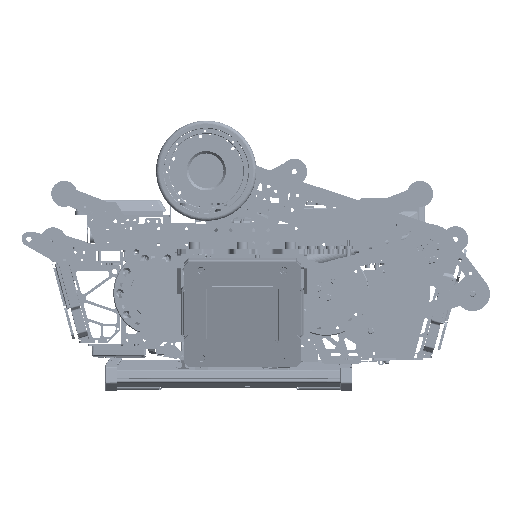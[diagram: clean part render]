
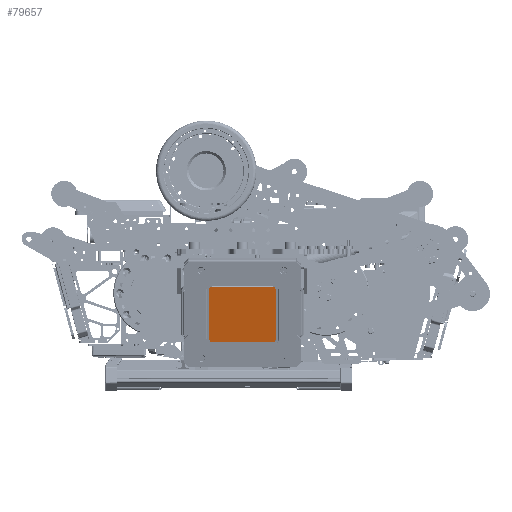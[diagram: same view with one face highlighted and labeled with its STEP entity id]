
A CAD part, front view. The second image highlights one B-rep face of the part: STEP entity #79657.
In plain terms, the highlighted planar face has unit normal (0, -0.966, -0.259).
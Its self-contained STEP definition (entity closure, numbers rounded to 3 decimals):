
#6412 = CARTESIAN_POINT ( 'NONE',  ( -34.66, -242.613, -106.769 ) ) ;
#6894 = CARTESIAN_POINT ( 'NONE',  ( 35.34, -243.454, -103.63 ) ) ;
#8904 = CARTESIAN_POINT ( 'NONE',  ( 0.34, -259.824, -42.535 ) ) ;
#12438 = VERTEX_POINT ( 'NONE', #312008 ) ;
#26704 = VERTEX_POINT ( 'NONE', #65310 ) ;
#27945 = DIRECTION ( 'NONE',  ( 0., 0.966, 0.259 ) ) ;
#45679 = VECTOR ( 'NONE', #255805, 1000. ) ;
#50062 = VECTOR ( 'NONE', #355656, 1000. ) ;
#57003 = EDGE_CURVE ( 'NONE', #190736, #214198, #83902, .T. ) ;
#65310 = CARTESIAN_POINT ( 'NONE',  ( 38.59, -258.983, -45.674 ) ) ;
#66719 = DIRECTION ( 'NONE',  ( 0., -0.259, 0.966 ) ) ;
#79657 = ADVANCED_FACE ( 'NONE', ( #516402 ), #109763, .F. ) ;
#83902 = CIRCLE ( 'NONE', #477783, 3.25 ) ;
#87515 = ORIENTED_EDGE ( 'NONE', *, *, #408386, .F. ) ;
#89263 = VECTOR ( 'NONE', #66719, 1000. ) ;
#106484 = DIRECTION ( 'NONE',  ( 1., 0., 0. ) ) ;
#109763 = PLANE ( 'NONE',  #174366 ) ;
#115210 = DIRECTION ( 'NONE',  ( 0., 0.966, 0.259 ) ) ;
#116696 = DIRECTION ( 'NONE',  ( 0., 0.966, 0.259 ) ) ;
#143326 = EDGE_CURVE ( 'NONE', #193594, #171504, #255591, .T. ) ;
#161559 = VECTOR ( 'NONE', #458933, 1000. ) ;
#171504 = VERTEX_POINT ( 'NONE', #6412 ) ;
#174366 = AXIS2_PLACEMENT_3D ( 'NONE', #526229, #209734, #106484 ) ;
#183169 = EDGE_CURVE ( 'NONE', #214198, #392085, #368722, .T. ) ;
#190736 = VERTEX_POINT ( 'NONE', #413530 ) ;
#193594 = VERTEX_POINT ( 'NONE', #653833 ) ;
#201356 = AXIS2_PLACEMENT_3D ( 'NONE', #614212, #207604, #607683 ) ;
#205408 = CARTESIAN_POINT ( 'NONE',  ( 35.34, -258.983, -45.674 ) ) ;
#207604 = DIRECTION ( 'NONE',  ( 0., 0.966, 0.259 ) ) ;
#209734 = DIRECTION ( 'NONE',  ( 0., 0.966, 0.259 ) ) ;
#214198 = VERTEX_POINT ( 'NONE', #647375 ) ;
#231161 = DIRECTION ( 'NONE',  ( 1., 0., 0. ) ) ;
#245279 = AXIS2_PLACEMENT_3D ( 'NONE', #205408, #115210, #471860 ) ;
#249061 = CARTESIAN_POINT ( 'NONE',  ( 0.34, -242.613, -106.769 ) ) ;
#255591 = LINE ( 'NONE', #249061, #161559 ) ;
#255805 = DIRECTION ( 'NONE',  ( 0., 0.259, -0.966 ) ) ;
#263377 = DIRECTION ( 'NONE',  ( 1., 0., 0. ) ) ;
#265078 = CIRCLE ( 'NONE', #201356, 3.25 ) ;
#265611 = LINE ( 'NONE', #418949, #45679 ) ;
#294771 = EDGE_CURVE ( 'NONE', #12438, #190736, #573292, .T. ) ;
#298593 = CIRCLE ( 'NONE', #245279, 3.25 ) ;
#312008 = CARTESIAN_POINT ( 'NONE',  ( -37.91, -243.454, -103.63 ) ) ;
#332498 = EDGE_CURVE ( 'NONE', #171504, #12438, #265078, .T. ) ;
#355613 = AXIS2_PLACEMENT_3D ( 'NONE', #6894, #116696, #263377 ) ;
#355656 = DIRECTION ( 'NONE',  ( 1., 0., 0. ) ) ;
#368722 = LINE ( 'NONE', #8904, #50062 ) ;
#377033 = ORIENTED_EDGE ( 'NONE', *, *, #183169, .F. ) ;
#391373 = CARTESIAN_POINT ( 'NONE',  ( 38.59, -243.454, -103.63 ) ) ;
#392085 = VERTEX_POINT ( 'NONE', #446615 ) ;
#408386 = EDGE_CURVE ( 'NONE', #26704, #418421, #265611, .T. ) ;
#413530 = CARTESIAN_POINT ( 'NONE',  ( -37.91, -258.983, -45.674 ) ) ;
#416745 = CARTESIAN_POINT ( 'NONE',  ( -37.91, -251.218, -74.652 ) ) ;
#418421 = VERTEX_POINT ( 'NONE', #391373 ) ;
#418949 = CARTESIAN_POINT ( 'NONE',  ( 38.59, -251.218, -74.652 ) ) ;
#426485 = ORIENTED_EDGE ( 'NONE', *, *, #143326, .F. ) ;
#446615 = CARTESIAN_POINT ( 'NONE',  ( 35.34, -259.824, -42.535 ) ) ;
#458933 = DIRECTION ( 'NONE',  ( -1., 0., 0. ) ) ;
#461291 = EDGE_CURVE ( 'NONE', #418421, #193594, #568297, .T. ) ;
#468231 = ORIENTED_EDGE ( 'NONE', *, *, #294771, .F. ) ;
#469093 = ORIENTED_EDGE ( 'NONE', *, *, #57003, .F. ) ;
#471860 = DIRECTION ( 'NONE',  ( 1., 0., 0. ) ) ;
#477783 = AXIS2_PLACEMENT_3D ( 'NONE', #484535, #27945, #231161 ) ;
#484535 = CARTESIAN_POINT ( 'NONE',  ( -34.66, -258.983, -45.674 ) ) ;
#489673 = EDGE_LOOP ( 'NONE', ( #562615, #426485, #534828, #87515, #657575, #377033, #469093, #468231 ) ) ;
#516402 = FACE_OUTER_BOUND ( 'NONE', #489673, .T. ) ;
#526229 = CARTESIAN_POINT ( 'NONE',  ( 0.34, -251.218, -74.652 ) ) ;
#534828 = ORIENTED_EDGE ( 'NONE', *, *, #461291, .F. ) ;
#562615 = ORIENTED_EDGE ( 'NONE', *, *, #332498, .F. ) ;
#568297 = CIRCLE ( 'NONE', #355613, 3.25 ) ;
#573292 = LINE ( 'NONE', #416745, #89263 ) ;
#607683 = DIRECTION ( 'NONE',  ( 1., 0., 0. ) ) ;
#608399 = EDGE_CURVE ( 'NONE', #392085, #26704, #298593, .T. ) ;
#614212 = CARTESIAN_POINT ( 'NONE',  ( -34.66, -243.454, -103.63 ) ) ;
#647375 = CARTESIAN_POINT ( 'NONE',  ( -34.66, -259.824, -42.535 ) ) ;
#653833 = CARTESIAN_POINT ( 'NONE',  ( 35.34, -242.613, -106.769 ) ) ;
#657575 = ORIENTED_EDGE ( 'NONE', *, *, #608399, .F. ) ;
